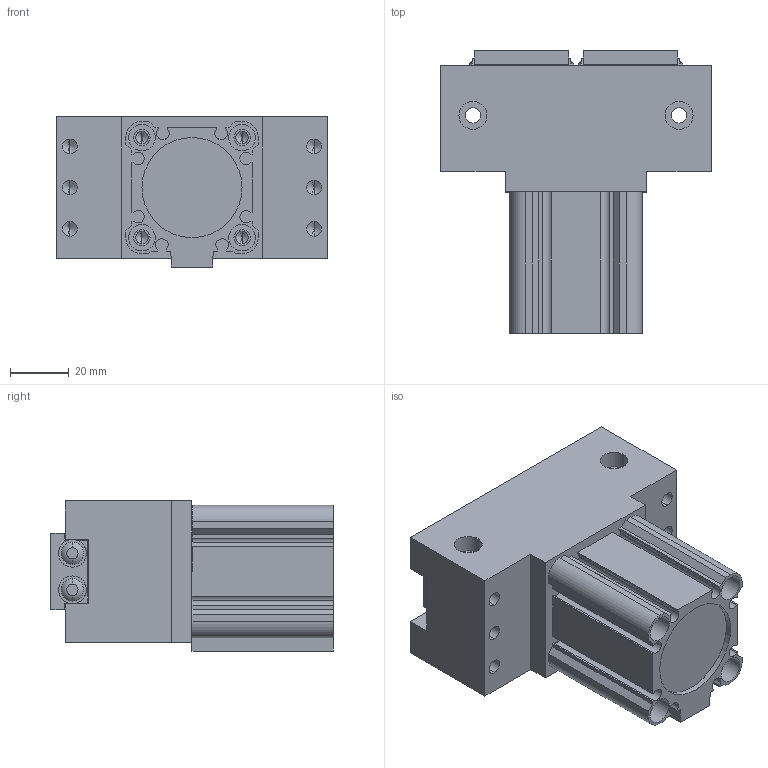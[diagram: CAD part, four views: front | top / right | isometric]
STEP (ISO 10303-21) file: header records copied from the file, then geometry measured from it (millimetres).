
FILE_DESCRIPTION (( 'STEP AP203' ), '1' );
FILE_NAME ('PPE-32-S.step', '2017-02-15T12:24:27', ( '' ), ( '' ), 'SwSTEP 2.0', 'SolidWorks 2012', '' );
FILE_SCHEMA (( 'CONFIG_CONTROL_DESIGN' ));
Length unit declared in the file: millimetre
Products named in the file (4): PPE-32-S; S-32-15; PPE32-2; PPE32S-1
Assembly tree (4 placements, depth 2):
  PPE-32-S
    PPE32S-1
    PPE32-2  x2
    S-32-15
Bounding box: 92 x 96 x 51 mm (x, y, z)
Volume: 225051 mm3; surface area: 58405.5 mm2
Topology: 4 solids, 12 shells, 353 faces, 832 edges, 516 vertices
Faces by surface type: cylinder 156, plane 145, cone 36, torus 16
Entity records: 8404 total; most frequent: DIRECTION 1488, CARTESIAN_POINT 1346, ORIENTED_EDGE 1288, EDGE_CURVE 644, AXIS2_PLACEMENT_3D 560, VERTEX_POINT 418, VECTOR 368, LINE 368
